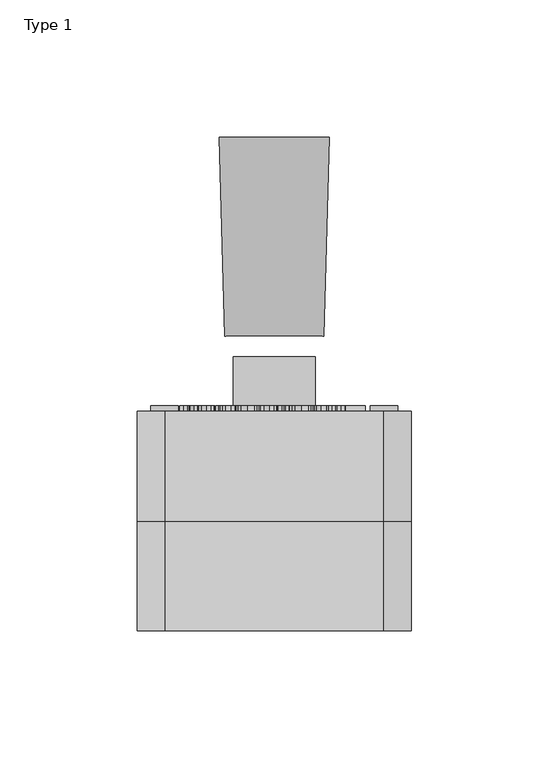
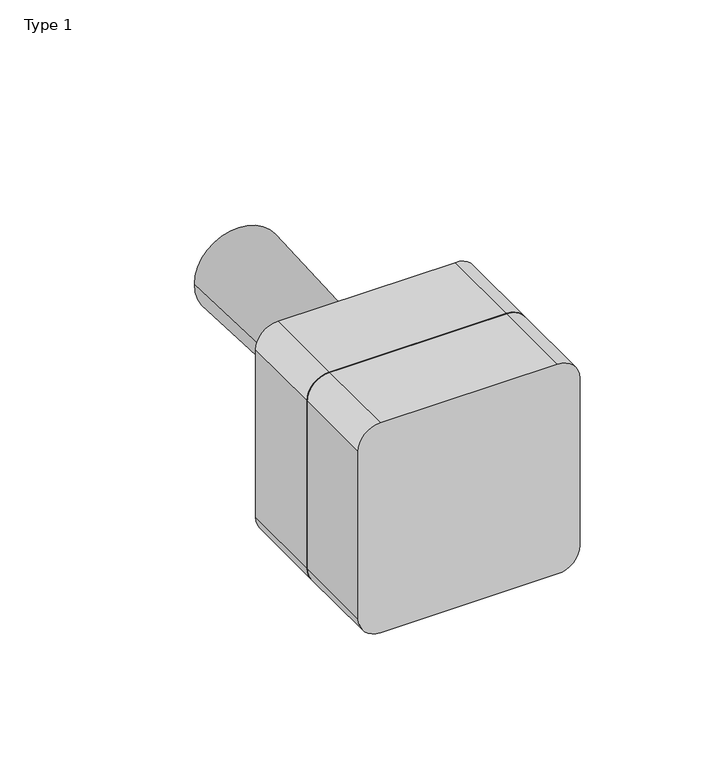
"""IFC4 building model written with IfcOpenShell, lengths in millimetres: proxy geometry, BIMHealth-Electrical-Emergency_Button-LOD2A-v1 : Type 1."""

from ifc_helpers import new_model, si_unit, point, frame, frame_2d, origin, place, context, project, spatial, polyline, circle_curve, trimmed, segment, composite_curve, outline, extrude, source, transform, mapped, element, save
from ifc_brep_helpers import plane_surface, revolved_surface, advanced_brep


def type_1_a222ae80(model_context):
    return source(origin(), model_context, "Body", "SolidModel", [
        extrude(outline(polyline([(1283.4038462, 158.1553492), (1293.25, 158.1553492), (1293.25, 151.0784261), (1292.0192308, 151.0784261), (1292.0192308, 156.92458), (1289.0961538, 156.92458), (1289.0961538, 151.3861184), (1287.8653846, 151.3861184), (1287.8653846, 156.92458), (1284.6346154, 156.92458), (1284.6346154, 150.92458), (1283.4038462, 150.92458), (1283.4038462, 158.1553492)])), frame((0.0, 155.0, 0.0), z_axis=(0.0, 1.0, 0.0), x_axis=(0.0, 0.0, 1.0)), (0.0, 0.0, 1.0), 2.0),
        extrude(outline(polyline([(1283.4038462, 149.2322723), (1290.6346154, 149.2322723), (1290.6346154, 148.001503), (1289.4447115, 148.001503), (1290.4194712, 147.1553492), (1290.7884615, 145.9510223), (1290.4122596, 144.7178492), (1289.3581731, 144.0399646), (1290.7884615, 141.8668877), (1290.1935096, 140.2575127), (1288.3605769, 139.6938107), (1283.4038462, 139.6938107), (1283.4038462, 140.92458), (1287.8317308, 140.92458), (1288.859375, 141.0387627), (1289.0649038, 143.3656857), (1287.4855769, 143.8476569), (1283.4038462, 143.8476569), (1283.4038462, 145.0784261), (1287.96875, 145.0784261), (1289.1610577, 145.3632819), (1289.5576923, 146.2971761), (1289.2932692, 147.2082338), (1288.5192308, 147.814003), (1287.0504808, 148.001503), (1283.4038462, 148.001503), (1283.4038462, 149.2322723)])), frame((0.0, 155.0, 0.0), z_axis=(0.0, 1.0, 0.0), x_axis=(0.0, 0.0, 1.0)), (0.0, 0.0, 1.0), 2.0),
        extrude(outline(polyline([(1285.5576923, 132.7851569), (1285.4038462, 131.5784261), (1283.8149038, 132.7070319), (1283.25, 134.8091953), (1284.2247596, 137.3644838), (1286.9591346, 138.3091953), (1289.7836538, 137.3548684), (1290.7884615, 134.8789069), (1289.7860577, 132.4738588), (1286.9663462, 131.5399646), (1286.6346154, 137.0784261), (1285.0360577, 136.3704934), (1284.4807692, 134.7851569), (1284.7379808, 133.5784261), (1285.5576923, 132.7851569)]), holes=[polyline([(1287.8653846, 137.0784261), (1287.8653846, 132.7707338), (1288.9807692, 133.2635223), (1289.5576923, 134.8837146), (1289.0973558, 136.3993396), (1287.8653846, 137.0784261)])]), frame((0.0, 155.0, 0.0), z_axis=(0.0, 1.0, 0.0), x_axis=(0.0, 0.0, 1.0)), (0.0, 0.0, 1.0), 2.0),
        extrude(outline(polyline([(1283.4038462, 130.3091953), (1290.6346154, 130.3091953), (1290.6346154, 129.2322723), (1289.5649038, 129.2322723), (1290.5504808, 128.4678492), (1290.7884615, 127.6986184), (1290.4086538, 126.4630415), (1289.3052885, 126.8740992), (1289.5576923, 127.7394838), (1288.6418269, 128.8789069), (1287.2043269, 129.0784261), (1283.4038462, 129.0784261), (1283.4038462, 130.3091953)])), frame((0.0, 155.0, 0.0), z_axis=(0.0, 1.0, 0.0), x_axis=(0.0, 0.0, 1.0)), (0.0, 0.0, 1.0), 2.0),
        extrude(outline(polyline([(1282.7884615, 126.001503), (1282.6346154, 124.7707338), (1281.7115385, 123.1769838), (1282.0216346, 121.9173684), (1282.8918269, 121.3164069), (1284.3269231, 121.2322723), (1283.4038462, 123.1553492), (1284.4783654, 125.3704934), (1287.0552885, 126.1553492), (1288.9627404, 125.8031857), (1290.3125, 124.783955), (1290.7884615, 123.2154453), (1289.7115385, 121.2322723), (1290.6346154, 121.2322723), (1290.6346154, 120.001503), (1284.3918269, 120.001503), (1282.0012019, 120.3380415), (1280.8894231, 121.4041473), (1280.4807692, 123.2010223), (1281.0564904, 125.2478973), (1282.7884615, 126.001503)]), holes=[polyline([(1287.1394231, 124.92458), (1285.234375, 124.3993396), (1284.6346154, 123.08083), (1285.2307692, 121.7647242), (1287.1033654, 121.2322723), (1288.9387019, 121.7803492), (1289.5576923, 123.1000607), (1288.9483173, 124.392128), (1287.1394231, 124.92458)])]), frame((0.0, 155.0, 0.0), z_axis=(0.0, 1.0, 0.0), x_axis=(0.0, 0.0, 1.0)), (0.0, 0.0, 1.0), 2.0),
        extrude(outline(polyline([(1285.5576923, 113.0928492), (1285.4038462, 111.8861184), (1283.8149038, 113.0147242), (1283.25, 115.1168877), (1284.2247596, 117.6721761), (1286.9591346, 118.6168877), (1289.7836538, 117.6625607), (1290.7884615, 115.1865992), (1289.7860577, 112.7815511), (1286.9663462, 111.8476569), (1286.6346154, 117.3861184), (1285.0360577, 116.6781857), (1284.4807692, 115.0928492), (1284.7379808, 113.8861184), (1285.5576923, 113.0928492)]), holes=[polyline([(1287.8653846, 117.3861184), (1287.8653846, 113.0784261), (1288.9807692, 113.5712146), (1289.5576923, 115.1914069), (1289.0973558, 116.7070319), (1287.8653846, 117.3861184)])]), frame((0.0, 155.0, 0.0), z_axis=(0.0, 1.0, 0.0), x_axis=(0.0, 0.0, 1.0)), (0.0, 0.0, 1.0), 2.0),
        extrude(outline(polyline([(1283.4038462, 110.6168877), (1290.6346154, 110.6168877), (1290.6346154, 109.3861184), (1289.625, 109.3861184), (1290.7884615, 107.1601569), (1290.5540865, 105.9978973), (1289.9387019, 105.204628), (1289.0336538, 104.8356377), (1287.84375, 104.7707338), (1283.4038462, 104.7707338), (1283.4038462, 106.001503), (1287.6778846, 106.001503), (1288.7668269, 106.14333), (1289.5576923, 107.4894838), (1289.0745192, 108.8248203), (1287.2403846, 109.3861184), (1283.4038462, 109.3861184), (1283.4038462, 110.6168877)])), frame((0.0, 155.0, 0.0), z_axis=(0.0, 1.0, 0.0), x_axis=(0.0, 0.0, 1.0)), (0.0, 0.0, 1.0), 2.0),
        extrude(outline(polyline([(1286.0192308, 98.4630415), (1285.8653846, 97.2322723), (1283.9435096, 98.220253), (1283.25, 100.1721761), (1284.2175481, 102.5051088), (1286.9927885, 103.3861184), (1289.0372596, 103.0099165), (1290.3509615, 101.8632819), (1290.7884615, 100.189003), (1290.1875, 98.3176088), (1288.4807692, 97.3861184), (1288.3269231, 98.6168877), (1289.2487981, 99.1878011), (1289.5576923, 100.1793877), (1288.9495192, 101.6060703), (1287.0264423, 102.1553492), (1285.0853365, 101.6180896), (1284.4807692, 100.2130415), (1284.8581731, 99.0531857), (1286.0192308, 98.4630415)])), frame((0.0, 155.0, 0.0), z_axis=(0.0, 1.0, 0.0), x_axis=(0.0, 0.0, 1.0)), (0.0, 0.0, 1.0), 2.0),
        extrude(outline(polyline([(1280.5576923, 95.7791473), (1281.8197115, 96.3091953), (1283.1322115, 94.4053492), (1290.6346154, 96.92458), (1290.6346154, 95.6289069), (1286.6177885, 94.2394838), (1285.0120192, 93.7563107), (1286.4326923, 93.2731377), (1290.6346154, 91.8476569), (1290.6346154, 90.5615992), (1283.2307692, 93.0784261), (1281.625, 93.7322723), (1280.7572115, 94.4462146), (1280.5576923, 95.7791473)])), frame((0.0, 155.0, 0.0), z_axis=(0.0, 1.0, 0.0), x_axis=(0.0, 0.0, 1.0)), (0.0, 0.0, 1.0), 2.0),
        extrude(outline(polyline([(1271.25, 152.3861184), (1281.0961538, 152.3861184), (1281.0961538, 148.14333), (1280.8305288, 146.173378), (1279.890625, 145.096455), (1278.4014423, 144.6938107), (1276.6274038, 145.360878), (1275.7115385, 147.4221761), (1275.1850962, 146.7226569), (1273.9182692, 145.7250607), (1271.25, 144.0832338), (1271.25, 145.5135223), (1273.2908654, 146.7947723), (1274.6418269, 147.720253), (1275.2800481, 148.3704934), (1275.5576923, 151.1553492), (1271.25, 151.1553492), (1271.25, 152.3861184)]), holes=[polyline([(1276.7884615, 151.1553492), (1276.7884615, 148.4005415), (1276.9627404, 146.9954934), (1277.5204327, 146.1974165), (1278.3557692, 145.92458), (1279.4399038, 146.4450127), (1279.8653846, 148.0904453), (1279.8653846, 151.1553492), (1276.7884615, 151.1553492)])]), frame((0.0, 155.0, 0.0), z_axis=(0.0, 1.0, 0.0), x_axis=(0.0, 0.0, 1.0)), (0.0, 0.0, 1.0), 2.0),
        extrude(outline(polyline([(1271.25, 138.0784261), (1272.4927885, 138.0784261), (1271.0961538, 140.29958), (1271.3413462, 141.4570319), (1271.9567308, 142.2551088), (1272.8629808, 142.6216953), (1274.0072115, 142.6938107), (1278.4807692, 142.6938107), (1278.4807692, 141.4630415), (1274.5865385, 141.4630415), (1273.3317308, 141.3885223), (1272.5949519, 140.9017434), (1272.3269231, 139.9846761), (1272.6009615, 138.9570319), (1273.3473558, 138.2779453), (1274.71875, 138.0784261), (1278.4807692, 138.0784261), (1278.4807692, 136.8476569), (1271.25, 136.8476569), (1271.25, 138.0784261)])), frame((0.0, 155.0, 0.0), z_axis=(0.0, 1.0, 0.0), x_axis=(0.0, 0.0, 1.0)), (0.0, 0.0, 1.0), 2.0),
        extrude(outline(polyline([(1271.25, 135.1553492), (1278.4807692, 135.1553492), (1278.4807692, 133.92458), (1277.4711538, 133.92458), (1278.6346154, 131.6986184), (1278.4002404, 130.5363588), (1277.7848558, 129.7430896), (1276.8798077, 129.3740992), (1275.6899038, 129.3091953), (1271.25, 129.3091953), (1271.25, 130.5399646), (1275.5240385, 130.5399646), (1276.6129808, 130.6817915), (1277.4038462, 132.0279453), (1276.9206731, 133.3632819), (1275.0865385, 133.92458), (1271.25, 133.92458), (1271.25, 135.1553492)])), frame((0.0, 155.0, 0.0), z_axis=(0.0, 1.0, 0.0), x_axis=(0.0, 0.0, 1.0)), (0.0, 0.0, 1.0), 2.0),
        extrude(outline(polyline([(1271.25, 123.1553492), (1272.4110577, 123.1553492), (1271.0961538, 125.095253), (1271.5721154, 126.6192915), (1272.9002404, 127.6962146), (1274.8581731, 128.0784261), (1276.8173077, 127.7262627), (1278.1658654, 126.6709742), (1278.6346154, 125.1000607), (1278.2992788, 123.9654453), (1277.4278846, 123.1553492), (1281.0961538, 123.1553492), (1281.0961538, 121.92458), (1271.25, 121.92458), (1271.25, 123.1553492)]), holes=[polyline([(1274.8629808, 126.8476569), (1272.9579327, 126.2923684), (1272.3269231, 124.9822723), (1272.9290865, 123.6878011), (1274.7692308, 123.1553492), (1276.7668269, 123.6974165), (1277.4038462, 125.032753), (1276.7920673, 126.3284261), (1274.8629808, 126.8476569)])]), frame((0.0, 155.0, 0.0), z_axis=(0.0, 1.0, 0.0), x_axis=(0.0, 0.0, 1.0)), (0.0, 0.0, 1.0), 2.0),
        extrude(outline(polyline([(1274.8653846, 120.3861184), (1277.8341346, 119.3212146), (1278.6346154, 117.1529453), (1277.6598558, 114.8272242), (1274.9663462, 113.92458), (1272.7764423, 114.3236184), (1271.5372596, 115.485878), (1271.0961538, 117.1529453), (1272.0673077, 119.4930896), (1274.8653846, 120.3861184)]), holes=[polyline([(1274.8677885, 119.1553492), (1272.9603365, 118.5856377), (1272.3269231, 117.1529453), (1272.9639423, 115.7250607), (1274.90625, 115.1553492), (1276.7704327, 115.7286665), (1277.4038462, 117.1529453), (1276.7728365, 118.5856377), (1274.8677885, 119.1553492)])]), frame((0.0, 155.0, 0.0), z_axis=(0.0, 1.0, 0.0), x_axis=(0.0, 0.0, 1.0)), (0.0, 0.0, 1.0), 2.0),
        extrude(outline(polyline([(1271.25, 111.33083), (1278.4807692, 113.5399646), (1278.4807692, 112.2635223), (1274.2620192, 111.0135223), (1272.7548077, 110.6409261), (1274.2067308, 110.3356377), (1278.4807692, 109.3428492), (1278.4807692, 107.8813107), (1274.21875, 106.8885223), (1272.9038462, 106.6168877), (1274.2908654, 106.2274646), (1278.4807692, 104.9774646), (1278.4807692, 103.6938107), (1271.25, 105.9101569), (1271.25, 107.3957338), (1275.4903846, 108.3428492), (1276.8125, 108.6168877), (1271.25, 109.8356377), (1271.25, 111.33083)])), frame((0.0, 155.0, 0.0), z_axis=(0.0, 1.0, 0.0), x_axis=(0.0, 0.0, 1.0)), (0.0, 0.0, 1.0), 2.0),
        extrude(outline(polyline([(1271.25, 102.8476569), (1278.4807692, 102.8476569), (1278.4807692, 101.6168877), (1277.4711538, 101.6168877), (1278.6346154, 99.3909261), (1278.4002404, 98.2286665), (1277.7848558, 97.4353973), (1276.8798077, 97.0664069), (1275.6899038, 97.001503), (1271.25, 97.001503), (1271.25, 98.2322723), (1275.5240385, 98.2322723), (1276.6129808, 98.3740992), (1277.4038462, 99.720253), (1276.9206731, 101.0555896), (1275.0865385, 101.6168877), (1271.25, 101.6168877), (1271.25, 102.8476569)])), frame((0.0, 155.0, 0.0), z_axis=(0.0, 1.0, 0.0), x_axis=(0.0, 0.0, 1.0)), (0.0, 0.0, 1.0), 2.0),
        advanced_brep(
        [(145.0, 255.0, 1250.0), (105.0, 255.0, 1250.0), (143.0, 182.5, 1250.0), (107.0, 182.5, 1250.0)],
        [
            (0, 1, circle_curve(frame((125.0, 255.0, 1250.0), z_axis=(0.0, 1.0, 0.0), x_axis=(1.0, 0.0, 0.0)), 20.0)),
            (1, 0, circle_curve(frame((125.0, 255.0, 1250.0), z_axis=(0.0, 1.0, 0.0), x_axis=(-1.0, 0.0, 0.0)), 20.0)),
            (2, 3, circle_curve(frame((125.0, 182.5, 1250.0), z_axis=(0.0, -1.0, 0.0), x_axis=(-1.0, 0.0, 0.0)), 18.0)),
            (3, 2, circle_curve(frame((125.0, 182.5, 1250.0), z_axis=(0.0, -1.0, 0.0), x_axis=(1.0, 0.0, 0.0)), 18.0)),
            (2, 0),
            (1, 3),
        ],
        [
            plane_surface(frame((125.0, 255.0, 1250.0), z_axis=(0.0, 1.0, 0.0), x_axis=(0.0, 0.0, 1.0))),
            plane_surface(frame((125.0, 182.5, 1250.0), z_axis=(0.0, -1.0, 0.0), x_axis=(0.0, 0.0, 1.0))),
            revolved_surface(polyline([(143.0, 182.5, 1250.0), (145.0, 255.0, 1250.0)]), (125.0, -470.0, 1250.0), (0.0, 1.0, 0.0)),
            revolved_surface(polyline([(107.0, 182.5, 1250.0), (105.0, 255.0, 1250.0)]), (125.0, -470.0, 1250.0), (0.0, 1.0, 0.0)),
        ],
        [
            (0, [[1, 2]]),
            (1, [[3, 4]]),
            (2, [[-3, 5, -2, 6]]),
            (3, [[-4, -6, -1, -5]]),
        ],
    ),
        advanced_brep(
        [(140.0, 155.0, 1210.0), (140.0, 155.0, 1250.0), (110.0, 155.0, 1250.0), (110.0, 155.0, 1210.0), (135.0, 155.0, 1215.0), (115.0, 155.0, 1215.0), (115.0, 155.0, 1225.0), (135.0, 155.0, 1225.0), (140.0, 157.5, 1210.0), (110.0, 157.5, 1210.0), (110.0, 157.5, 1250.0), (140.0, 157.5, 1250.0), (135.0, 157.5, 1215.0), (135.0, 157.5, 1225.0), (115.0, 157.5, 1225.0), (115.0, 157.5, 1215.0)],
        [
            (0, 1),
            (1, 2, circle_curve(frame((125.0, 155.0, 1250.0), z_axis=(0.0, 1.0, 0.0), x_axis=(-1.0, 0.0, 0.0)), 15.0)),
            (2, 3),
            (3, 0),
            (4, 5),
            (5, 6),
            (6, 7),
            (7, 4),
            (8, 9),
            (9, 10),
            (10, 11, circle_curve(frame((125.0, 157.5, 1250.0), z_axis=(0.0, -1.0, 0.0), x_axis=(-1.0, 0.0, 0.0)), 15.0)),
            (11, 8),
            (12, 13),
            (13, 14),
            (14, 15),
            (15, 12),
            (0, 8),
            (11, 1),
            (10, 2),
            (9, 3),
            (4, 12),
            (15, 5),
            (14, 6),
            (13, 7),
        ],
        [
            plane_surface(frame((140.0, 155.0, 1250.0), z_axis=(0.0, -1.0, 0.0), x_axis=(0.0, 0.0, 1.0))),
            plane_surface(frame((140.0, 157.5, 1250.0), z_axis=(0.0, 1.0, 0.0), x_axis=(0.0, 0.0, -1.0))),
            plane_surface(frame((140.0, 155.0, 1210.0), z_axis=(1.0, 0.0, 0.0), x_axis=(0.0, 1.0, 0.0))),
            revolved_surface(polyline([(110.0, 157.5, 1250.0), (110.0, 155.0, 1250.0)]), (125.0, 157.5, 1250.0), (0.0, 1.0, 0.0)),
            plane_surface(frame((110.0, 155.0, 1250.0), z_axis=(-1.0, 0.0, 0.0), x_axis=(0.0, 1.0, 0.0))),
            plane_surface(frame((110.0, 155.0, 1210.0), z_axis=(0.0, 0.0, -1.0), x_axis=(0.0, 1.0, 0.0))),
            plane_surface(frame((135.0, 155.0, 1215.0), z_axis=(0.0, 0.0, 1.0), x_axis=(0.0, 1.0, 0.0))),
            plane_surface(frame((115.0, 155.0, 1215.0), z_axis=(1.0, 0.0, 0.0), x_axis=(0.0, 1.0, 0.0))),
            plane_surface(frame((115.0, 155.0, 1225.0), z_axis=(0.0, 0.0, -1.0), x_axis=(0.0, 1.0, 0.0))),
            plane_surface(frame((135.0, 155.0, 1225.0), z_axis=(-1.0, 0.0, 0.0), x_axis=(0.0, 1.0, 0.0))),
        ],
        [
            (0, [[1, 2, 3, 4], [5, 6, 7, 8]]),
            (1, [[9, 10, 11, 12], [13, 14, 15, 16]]),
            (2, [[-1, 17, -12, 18]]),
            (3, [[-2, -18, -11, 19]]),
            (4, [[-3, -19, -10, 20]]),
            (5, [[-4, -20, -9, -17]]),
            (6, [[-5, 21, -16, 22]]),
            (7, [[-6, -22, -15, 23]]),
            (8, [[-7, -23, -14, 24]]),
            (9, [[-8, -24, -13, -21]]),
        ],
    ),
        extrude(outline(composite_curve([segment(trimmed(circle_curve(frame_2d((1250.0, 125.0)), 15.0), [point((1250.0, 140.0))], [point((1250.0, 110.0))], False, "CARTESIAN"), True, "CONTINUOUS"), segment(trimmed(circle_curve(frame_2d((1250.0, 125.0)), 15.0), [point((1250.0, 110.0))], [point((1250.0, 140.0))], False, "CARTESIAN"), True, "CONTINUOUS")], self_intersect=False)), frame((0.0, 155.0, 0.0), z_axis=(0.0, 1.0, 0.0), x_axis=(0.0, 0.0, 1.0)), (0.0, 0.0, 1.0), 20.0),
        extrude(outline(composite_curve([segment(trimmed(circle_curve(frame_2d((1210.0, 85.0)), 5.0), [point((1210.0, 80.0))], [point((1210.0, 90.0))], False, "CARTESIAN"), True, "CONTINUOUS"), segment(trimmed(circle_curve(frame_2d((1210.0, 85.0)), 5.0), [point((1210.0, 90.0))], [point((1210.0, 80.0))], False, "CARTESIAN"), True, "CONTINUOUS")], self_intersect=False)), frame((0.0, 155.0, 0.0), z_axis=(0.0, 1.0, 0.0), x_axis=(0.0, 0.0, 1.0)), (0.0, 0.0, 1.0), 2.0),
        extrude(outline(composite_curve([segment(trimmed(circle_curve(frame_2d((1210.0, 165.0)), 5.0), [point((1210.0, 170.0))], [point((1210.0, 160.0))], False, "CARTESIAN"), True, "CONTINUOUS"), segment(trimmed(circle_curve(frame_2d((1210.0, 165.0)), 5.0), [point((1210.0, 160.0))], [point((1210.0, 170.0))], False, "CARTESIAN"), True, "CONTINUOUS")], self_intersect=False)), frame((0.0, 155.0, 0.0), z_axis=(0.0, 1.0, 0.0), x_axis=(0.0, 0.0, 1.0)), (0.0, 0.0, 1.0), 2.0),
        extrude(outline(composite_curve([segment(trimmed(circle_curve(frame_2d((1290.0, 85.0)), 5.0), [point((1290.0, 80.0))], [point((1290.0, 90.0))], False, "CARTESIAN"), True, "CONTINUOUS"), segment(trimmed(circle_curve(frame_2d((1290.0, 85.0)), 5.0), [point((1290.0, 90.0))], [point((1290.0, 80.0))], False, "CARTESIAN"), True, "CONTINUOUS")], self_intersect=False)), frame((0.0, 155.0, 0.0), z_axis=(0.0, 1.0, 0.0), x_axis=(0.0, 0.0, 1.0)), (0.0, 0.0, 1.0), 2.0),
        extrude(outline(composite_curve([segment(trimmed(circle_curve(frame_2d((1290.0, 165.0)), 5.0), [point((1290.0, 170.0))], [point((1290.0, 160.0))], False, "CARTESIAN"), True, "CONTINUOUS"), segment(trimmed(circle_curve(frame_2d((1290.0, 165.0)), 5.0), [point((1290.0, 160.0))], [point((1290.0, 170.0))], False, "CARTESIAN"), True, "CONTINUOUS")], self_intersect=False)), frame((0.0, 155.0, 0.0), z_axis=(0.0, 1.0, 0.0), x_axis=(0.0, 0.0, 1.0)), (0.0, 0.0, 1.0), 2.0),
        extrude(outline(composite_curve([segment(trimmed(circle_curve(frame_2d((1290.0, 85.0)), 10.0), [point((1300.0, 85.0))], [point((1290.0, 75.0))], False, "CARTESIAN"), True, "CONTINUOUS"), segment(polyline([(1290.0, 75.0), (1210.0, 75.0)]), True, "CONTINUOUS"), segment(trimmed(circle_curve(frame_2d((1210.0, 85.0)), 10.0), [point((1210.0, 75.0))], [point((1200.0, 85.0))], False, "CARTESIAN"), True, "CONTINUOUS"), segment(polyline([(1200.0, 85.0), (1200.0, 165.0)]), True, "CONTINUOUS"), segment(trimmed(circle_curve(frame_2d((1210.0, 165.0)), 10.0), [point((1200.0, 165.0))], [point((1210.0, 175.0))], False, "CARTESIAN"), True, "CONTINUOUS"), segment(polyline([(1210.0, 175.0), (1290.0, 175.0)]), True, "CONTINUOUS"), segment(trimmed(circle_curve(frame_2d((1290.0, 165.0)), 10.0), [point((1290.0, 175.0))], [point((1300.0, 165.0))], False, "CARTESIAN"), True, "CONTINUOUS"), segment(polyline([(1300.0, 165.0), (1300.0, 85.0)]), True, "CONTINUOUS")], self_intersect=False)), frame((0.0, 115.0, 0.0), z_axis=(0.0, 1.0, 0.0), x_axis=(0.0, 0.0, 1.0)), (0.0, 0.0, 1.0), 40.0),
        extrude(outline(composite_curve([segment(trimmed(circle_curve(frame_2d((1290.0, 85.0)), 10.0), [point((1300.0, 85.0))], [point((1290.0, 75.0))], False, "CARTESIAN"), True, "CONTINUOUS"), segment(polyline([(1290.0, 75.0), (1210.0, 75.0)]), True, "CONTINUOUS"), segment(trimmed(circle_curve(frame_2d((1210.0, 85.0)), 10.0), [point((1210.0, 75.0))], [point((1200.0, 85.0))], False, "CARTESIAN"), True, "CONTINUOUS"), segment(polyline([(1200.0, 85.0), (1200.0, 165.0)]), True, "CONTINUOUS"), segment(trimmed(circle_curve(frame_2d((1210.0, 165.0)), 10.0), [point((1200.0, 165.0))], [point((1210.0, 175.0))], False, "CARTESIAN"), True, "CONTINUOUS"), segment(polyline([(1210.0, 175.0), (1290.0, 175.0)]), True, "CONTINUOUS"), segment(trimmed(circle_curve(frame_2d((1290.0, 165.0)), 10.0), [point((1290.0, 175.0))], [point((1300.0, 165.0))], False, "CARTESIAN"), True, "CONTINUOUS"), segment(polyline([(1300.0, 165.0), (1300.0, 85.0)]), True, "CONTINUOUS")], self_intersect=False)), frame((0.0, 75.0, 0.0), z_axis=(0.0, 1.0, 0.0), x_axis=(0.0, 0.0, 1.0)), (0.0, 0.0, 1.0), 40.0),
    ])


if __name__ == "__main__":
    model = new_model("IFC4")
    model_context = context("Model", 3, world=origin())
    ifc_project = project(units=[si_unit("LENGTHUNIT", "METRE", prefix="MILLI")], contexts=[model_context])
    site = spatial("IfcSite", under=ifc_project)
    building = spatial("IfcBuilding", under=site)
    placement = place(None, origin())
    type_1_shape = type_1_a222ae80(model_context)
    element("IfcBuildingElementProxy", 1, Name="BIMHealth-Electrical-Emergency_Button-LOD2A-v1 : Type 1", ObjectType="BIMHealth-Electrical-Emergency_Button-LOD2A-v1 : Type 1", at=placement, inside=building, context=model_context, shape_type="MappedRepresentation", body=[
        mapped(type_1_shape, transform((0.0, 0.0, 0.0), x_axis=(1.0, 0.0, 0.0), y_axis=(0.0, 1.0, 0.0), z_axis=(0.0, 0.0, 1.0))),
    ])
    save(model, "model.ifc")
